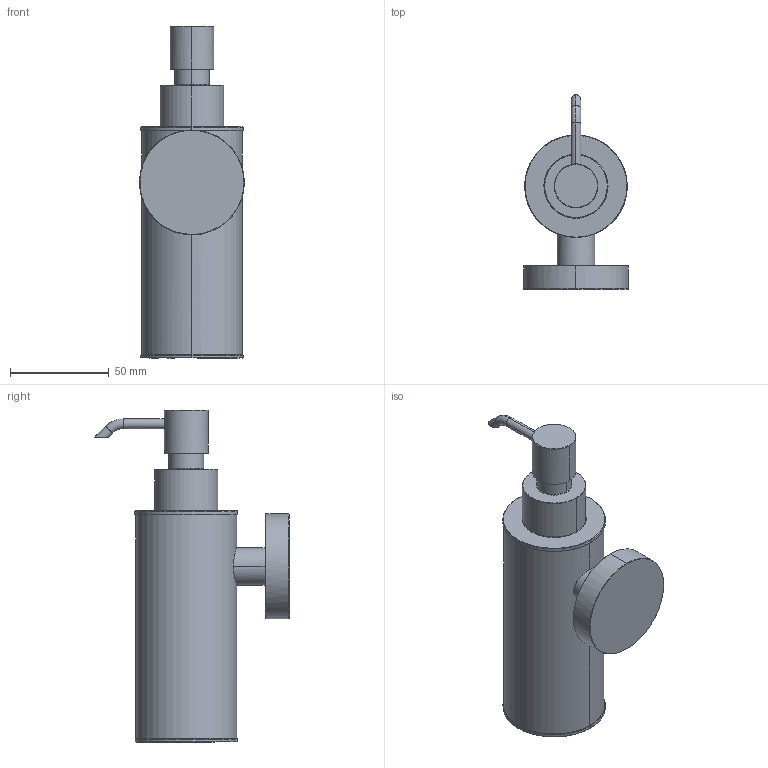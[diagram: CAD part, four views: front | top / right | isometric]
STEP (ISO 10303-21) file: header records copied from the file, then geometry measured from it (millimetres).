
FILE_DESCRIPTION(('THIS FILE CONTAINS SOME STEP INSTANCES'),'1');
FILE_NAME('HAR 016-light.stp','2015-10-26T15:42:51',('UNDEFINED'),('UNDEFINED'),'T-FLEX CAD STEP converter','T-FLEX CAD','');
FILE_SCHEMA(('CONFIG_CONTROL_DESIGN'));
Length unit declared in the file: metre
Products named in the file (1): har_016
Bounding box: 52.97 x 98.19 x 167.7 mm (x, y, z)
Volume: 296953.5 mm3; surface area: 34516.4 mm2
Topology: 1 solids, 1 shells, 65 faces, 142 edges, 85 vertices
Faces by surface type: cone 26, cylinder 20, plane 10, bspline 7, torus 2
Entity records: 4574 total; most frequent: CARTESIAN_POINT 3390, ORIENTED_EDGE 284, DIRECTION 186, EDGE_CURVE 142, VERTEX_POINT 85, EDGE_LOOP 71, AXIS2_PLACEMENT_3D 70, ADVANCED_FACE 65
